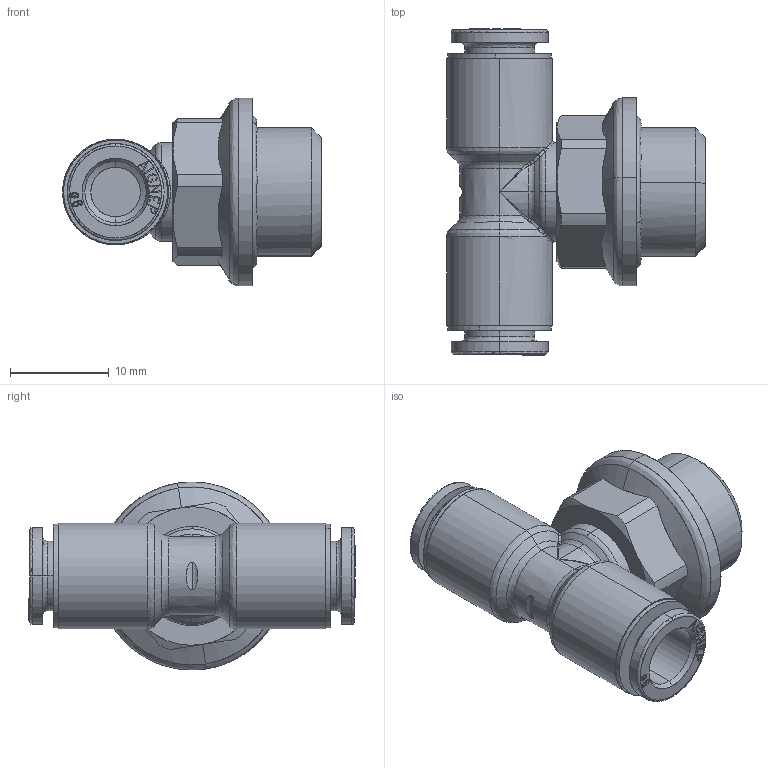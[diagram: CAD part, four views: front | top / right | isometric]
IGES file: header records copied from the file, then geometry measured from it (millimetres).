
Start section: SolidWorks IGES file using analytic representation for surfaces
Global section: file name: K:\Disegni Esecutivi\SERIE 54000\54000-Assiemi\54216\IGES\5421600014A.IGS; native system: SolidWorks 2020; preprocessor: SolidWorks 2020; author: CAD13; date: 240920.112046; units: millimetre
Bounding box: 26.15 x 33 x 19 mm (x, y, z)
Surface area: 3010.5 mm2 (no closed solid volume)
Topology: 0 solids, 0 shells, 554 faces, 4579 edges, 4575 vertices
Faces by surface type: bspline 481, revolution 73
